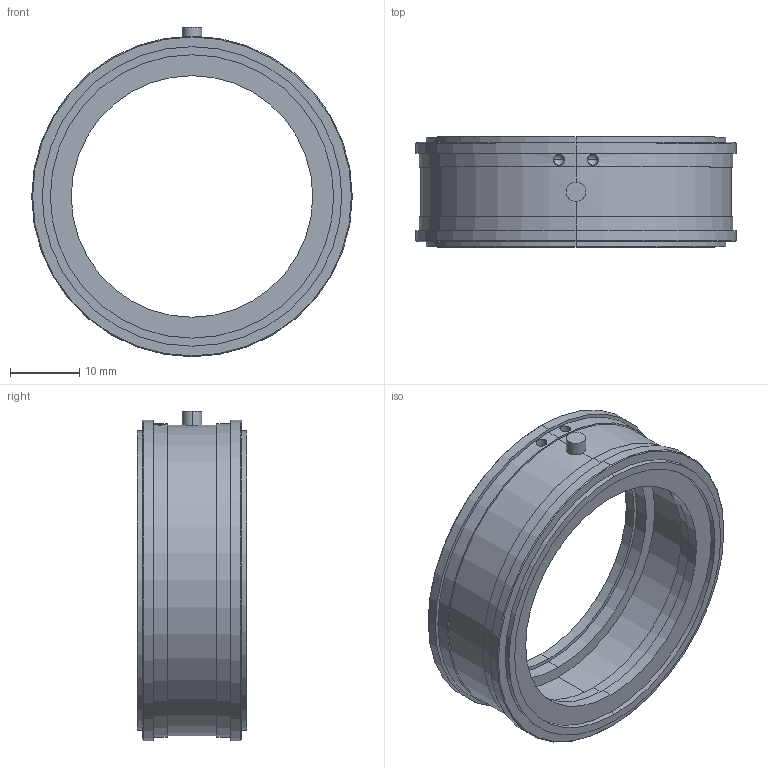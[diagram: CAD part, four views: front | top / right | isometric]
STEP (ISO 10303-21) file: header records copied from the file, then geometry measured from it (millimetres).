
FILE_DESCRIPTION (( 'STEP AP214' ), '1' );
FILE_NAME ('Final ASBY SS1366-8KLB_17482-481!.STEP', '2024-08-12T14:44:17', ( '' ), ( '' ), 'SwSTEP 2.0', 'SolidWorks 2008', '' );
FILE_SCHEMA (( 'AUTOMOTIVE_DESIGN' ));
Length unit declared in the file: inch
Products named in the file (1): Final ASBY SS1366-8KLB_17482-481!
Bounding box: 46.35 x 15.88 x 47.64 mm (x, y, z)
Volume: 7560.9 mm3; surface area: 6342.7 mm2
Topology: 1 solids, 1 shells, 57 faces, 125 edges, 80 vertices
Faces by surface type: cylinder 34, plane 15, cone 4, sphere 4
Entity records: 1654 total; most frequent: CARTESIAN_POINT 357, DIRECTION 295, ORIENTED_EDGE 234, AXIS2_PLACEMENT_3D 128, EDGE_CURVE 117, VERTEX_POINT 76, EDGE_LOOP 73, CIRCLE 70
